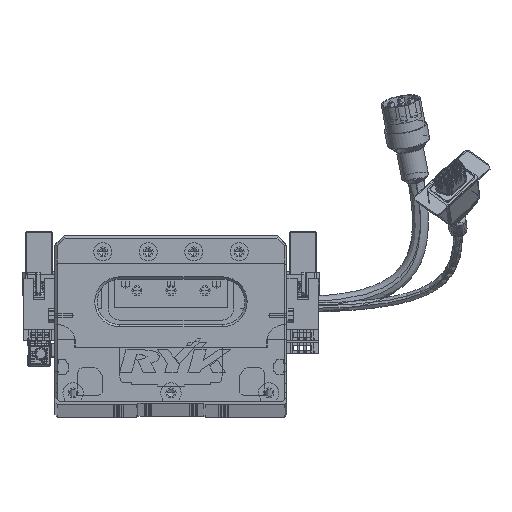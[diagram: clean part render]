
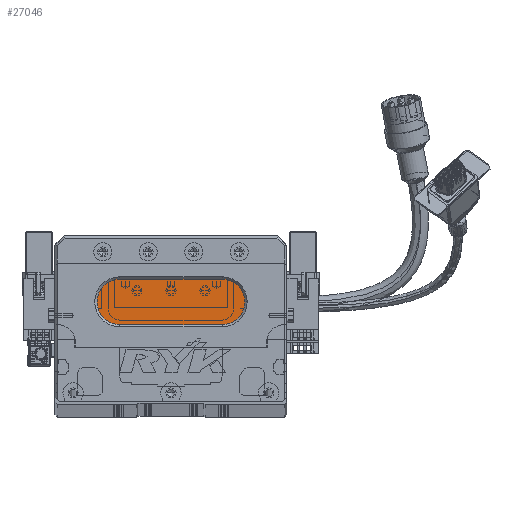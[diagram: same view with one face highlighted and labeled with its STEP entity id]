
A CAD part, top view. The second image highlights one B-rep face of the part: STEP entity #27046.
In plain terms, the highlighted planar face has unit normal (0, 0, 1) as drawn and (0, 0, -1) by its records, which use the part's own axes.
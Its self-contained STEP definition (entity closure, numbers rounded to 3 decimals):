
#1770 = EDGE_CURVE ( 'NONE', #86240, #86268, #61804, .T. ) ;
#6122 = DIRECTION ( 'NONE',  ( 0., 0., -1. ) ) ;
#9037 = EDGE_LOOP ( 'NONE', ( #53702, #42340, #63374, #41365, #28494 ) ) ;
#9522 = CARTESIAN_POINT ( 'NONE',  ( 73.5, 34., 13. ) ) ;
#11098 = CARTESIAN_POINT ( 'NONE',  ( 73.5, 44., 13. ) ) ;
#22004 = CARTESIAN_POINT ( 'NONE',  ( 28.5, 44., 13. ) ) ;
#23817 = LINE ( 'NONE', #9522, #76274 ) ;
#24754 = DIRECTION ( 'NONE',  ( 0., 0., -1. ) ) ;
#25256 = CARTESIAN_POINT ( 'NONE',  ( 73.5, 34., 13. ) ) ;
#25786 = DIRECTION ( 'NONE',  ( -1., 0., 0. ) ) ;
#27046 = ADVANCED_FACE ( 'NONE', ( #71268 ), #94084, .T. ) ;
#28494 = ORIENTED_EDGE ( 'NONE', *, *, #1770, .T. ) ;
#31313 = VERTEX_POINT ( 'NONE', #25256 ) ;
#36515 = CIRCLE ( 'NONE', #38595, 10. ) ;
#38582 = DIRECTION ( 'NONE',  ( -1., 0., 0. ) ) ;
#38595 = AXIS2_PLACEMENT_3D ( 'NONE', #22004, #58678, #72001 ) ;
#41365 = ORIENTED_EDGE ( 'NONE', *, *, #57522, .T. ) ;
#42340 = ORIENTED_EDGE ( 'NONE', *, *, #44235, .T. ) ;
#42442 = EDGE_CURVE ( 'NONE', #86268, #31313, #91749, .T. ) ;
#44235 = EDGE_CURVE ( 'NONE', #31313, #62835, #23817, .T. ) ;
#49211 = CARTESIAN_POINT ( 'NONE',  ( 28.5, 34., 13. ) ) ;
#50518 = CARTESIAN_POINT ( 'NONE',  ( 73.5, 44., 13. ) ) ;
#53702 = ORIENTED_EDGE ( 'NONE', *, *, #42442, .T. ) ;
#54124 = AXIS2_PLACEMENT_3D ( 'NONE', #50518, #6122, #64464 ) ;
#54915 = EDGE_CURVE ( 'NONE', #62835, #81739, #92542, .T. ) ;
#57522 = EDGE_CURVE ( 'NONE', #81739, #86240, #36515, .T. ) ;
#58678 = DIRECTION ( 'NONE',  ( 0., 0., -1. ) ) ;
#61804 = LINE ( 'NONE', #71464, #82207 ) ;
#62104 = DIRECTION ( 'NONE',  ( 0., 0., -1. ) ) ;
#62835 = VERTEX_POINT ( 'NONE', #49211 ) ;
#63374 = ORIENTED_EDGE ( 'NONE', *, *, #54915, .T. ) ;
#64464 = DIRECTION ( 'NONE',  ( -1., 0., 0. ) ) ;
#67148 = CARTESIAN_POINT ( 'NONE',  ( 73.5, 54., 13. ) ) ;
#70912 = CARTESIAN_POINT ( 'NONE',  ( 18.5, 44., 13. ) ) ;
#71268 = FACE_OUTER_BOUND ( 'NONE', #9037, .T. ) ;
#71464 = CARTESIAN_POINT ( 'NONE',  ( 73.5, 54., 13. ) ) ;
#72001 = DIRECTION ( 'NONE',  ( -1., 0., 0. ) ) ;
#76274 = VECTOR ( 'NONE', #38582, 1000. ) ;
#76746 = CARTESIAN_POINT ( 'NONE',  ( 28.5, 54., 13. ) ) ;
#81739 = VERTEX_POINT ( 'NONE', #70912 ) ;
#82207 = VECTOR ( 'NONE', #93128, 1000. ) ;
#86240 = VERTEX_POINT ( 'NONE', #76746 ) ;
#86268 = VERTEX_POINT ( 'NONE', #67148 ) ;
#89442 = DIRECTION ( 'NONE',  ( -1., 0., 0. ) ) ;
#89920 = AXIS2_PLACEMENT_3D ( 'NONE', #11098, #62104, #25786 ) ;
#90065 = CARTESIAN_POINT ( 'NONE',  ( 28.5, 44., 13. ) ) ;
#90872 = AXIS2_PLACEMENT_3D ( 'NONE', #90065, #24754, #89442 ) ;
#91749 = CIRCLE ( 'NONE', #89920, 10. ) ;
#92542 = CIRCLE ( 'NONE', #90872, 10. ) ;
#93128 = DIRECTION ( 'NONE',  ( 1., 0., 0. ) ) ;
#94084 = PLANE ( 'NONE',  #54124 ) ;
